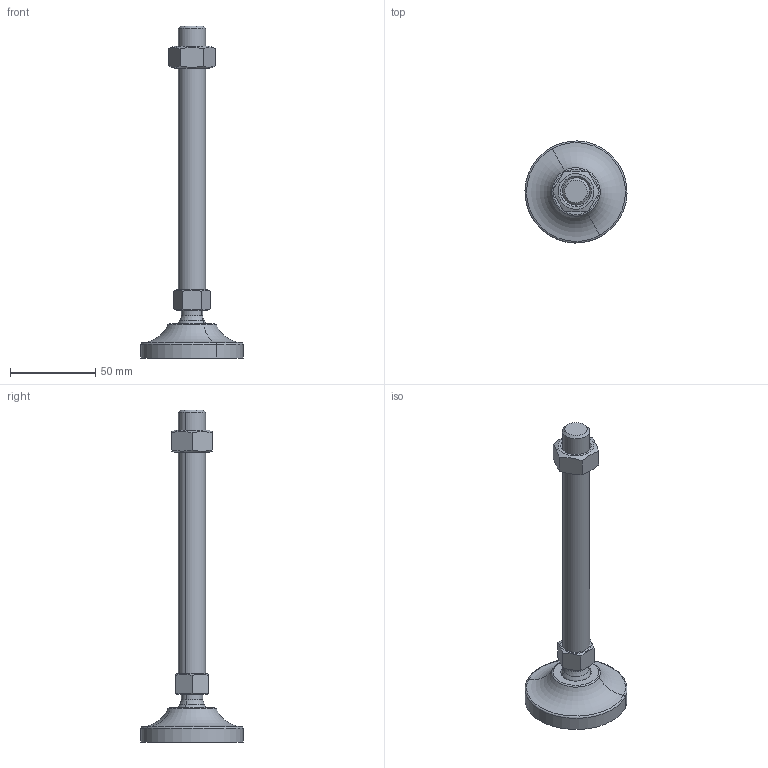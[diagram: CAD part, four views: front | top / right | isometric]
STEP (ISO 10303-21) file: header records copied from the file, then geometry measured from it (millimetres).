
FILE_DESCRIPTION(('CATIA V5 STEP Exchange'),'2;1');
FILE_NAME('C:\Users\ALI OZGUN\Desktop\alhan\saplama2\560601621.stp','2017-09-21T10:33:34+00:00',('none'),('none'),'CATIA Version 5 Release 21 GA (IN-10)','CATIA V5 STEP AP203','none');
FILE_SCHEMA(('CONFIG_CONTROL_DESIGN'));
Length unit declared in the file: millimetre
Products named in the file (1): 560601621
Bounding box: 59.98 x 59.98 x 195 mm (x, y, z)
Volume: 66784.1 mm3; surface area: 21058.3 mm2
Topology: 3 solids, 3 shells, 60 faces, 136 edges, 83 vertices
Faces by surface type: plane 20, cone 16, cylinder 14, torus 6, revolution 2, sphere 2
Entity records: 1852 total; most frequent: CARTESIAN_POINT 610, ORIENTED_EDGE 268, DIRECTION 186, EDGE_CURVE 134, AXIS2_PLACEMENT_3D 100, VERTEX_POINT 83, EDGE_LOOP 67, ADVANCED_FACE 60
